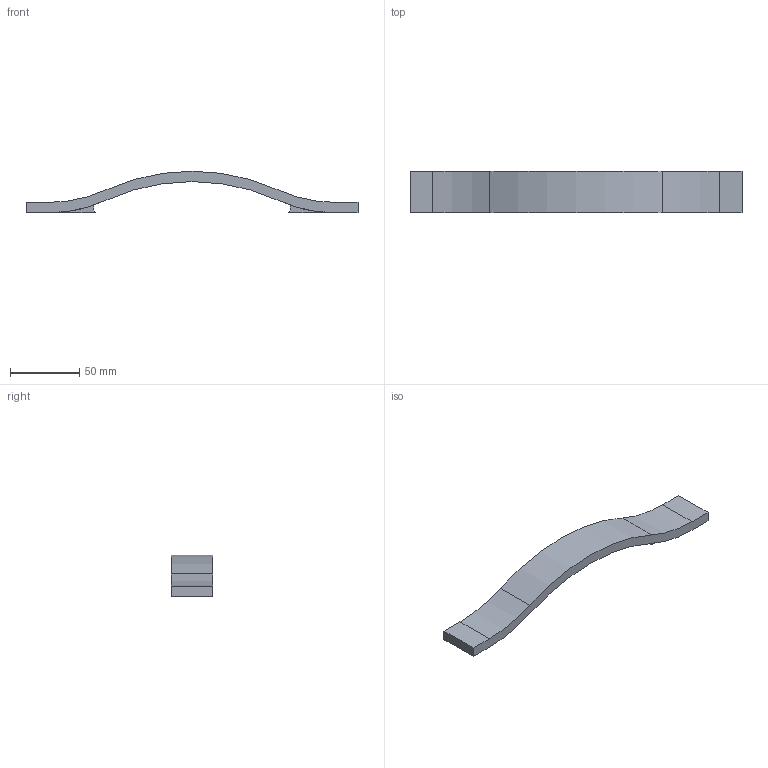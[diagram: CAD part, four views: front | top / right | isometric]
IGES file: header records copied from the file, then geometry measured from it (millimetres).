
Start section: Data from XPlus IGES,  Spatial Corp. Copyright (c) 1999-2004
Global section: file name: 9113513.igs; native system:  By Spatial Corp.; preprocessor: XPlus ACIS/IGES 3.0; author: Noname; organization: Noname; date: 20130226.191327; units: millimetre
Bounding box: 240 x 30 x 30 mm (x, y, z)
Surface area: 19508.4 mm2 (no closed solid volume)
Topology: 0 solids, 0 shells, 26 faces, 132 edges, 132 vertices
Faces by surface type: extrusion 14, revolution 12
